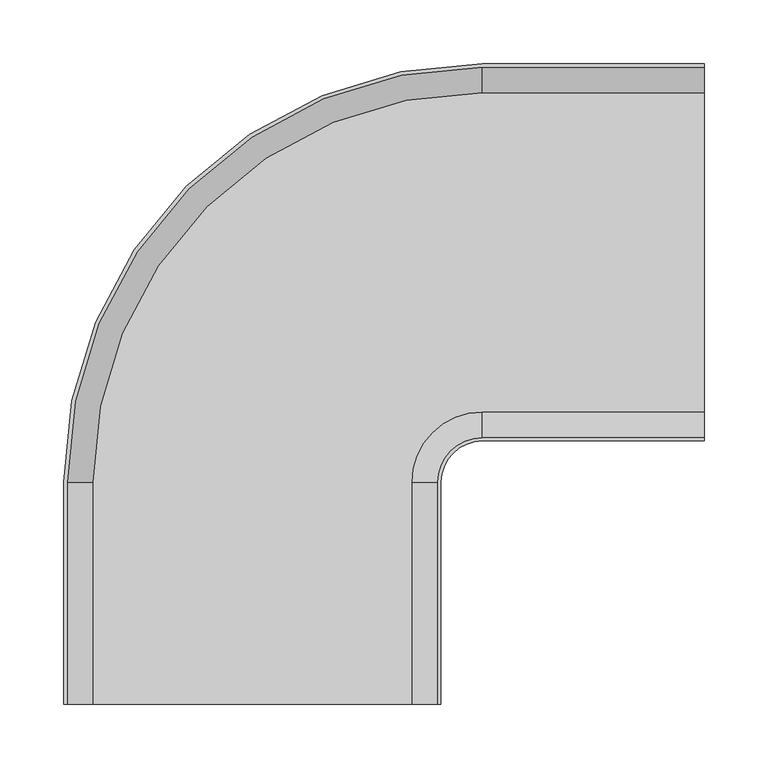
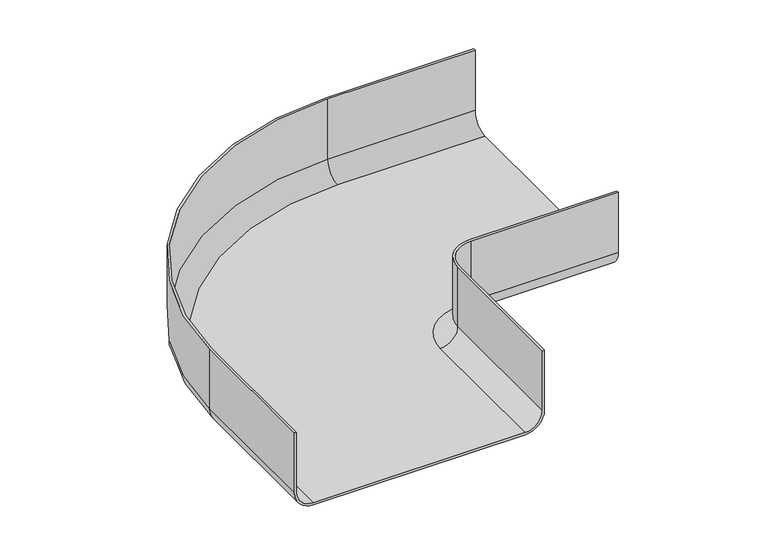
"""IFC4 building model written with IfcOpenShell, lengths in millimetres: cable carrier fitting geometry, CCT_Hyperline_FBTR_ELB90 Горизонтальный изгиб на 90° пластиковый : Горизонтальный изгиб на 90° пластиковый."""

from ifc_helpers import new_model, si_unit, point, frame, origin, place, context, project, spatial, polyline, circle_curve, ellipse_curve, trimmed, source, transform, mapped, element, save
from ifc_brep_helpers import plane_surface, cylinder_surface, revolved_surface, advanced_brep


def cable_carrier_fitting_a8f579ef(model_context):
    return source(origin(), model_context, "Body", "AdvancedBrep", [
        advanced_brep(
        [(353.5, -147.54, -25.0), (353.5, -125.0, -47.54), (353.5, 125.0, -47.54), (353.5, 147.54, -25.0), (353.5, 147.54, 50.0), (353.5, 145.0, 50.0), (353.5, 145.0, -25.0), (353.5, 125.0, -45.0), (353.5, -125.0, -45.0), (353.5, -145.0, -25.0), (353.5, -145.0, 50.0), (353.5, -147.54, 50.0), (180.0, -147.54, -25.0), (180.0, -125.0, -47.54), (180.0, -125.0, -45.0), (180.0, -145.0, -25.0), (180.0, -145.0, 50.0), (145.0, -180.0, 50.0), (145.0, -353.5, 50.0), (147.54, -353.5, 50.0), (147.54, -180.0, 50.0), (180.0, -147.54, 50.0), (125.0, -180.0, -47.54), (147.54, -180.0, -25.0), (145.0, -180.0, -25.0), (125.0, -180.0, -45.0), (147.54, -353.5, -25.0), (145.0, -353.5, -25.0), (125.0, -353.5, -45.0), (-125.0, -353.5, -45.0), (-145.0, -353.5, -25.0), (-145.0, -353.5, 50.0), (-147.54, -353.5, 50.0), (-147.54, -353.5, -25.0), (-125.0, -353.5, -47.54), (125.0, -353.5, -47.54), (180.0, 125.0, -47.54), (180.0, 147.54, -25.0), (180.0, 147.54, 50.0), (-147.54, -180.0, 50.0), (-145.0, -180.0, 50.0), (180.0, 145.0, 50.0), (180.0, 145.0, -25.0), (180.0, 125.0, -45.0), (-147.54, -180.0, -25.0), (-125.0, -180.0, -47.54), (-145.0, -180.0, -25.0), (-125.0, -180.0, -45.0)],
        [
            (0, 1, circle_curve(frame((353.5, -125.0, -25.0), z_axis=(1.0, 0.0, 0.0), x_axis=(0.0, -1.0, 0.0)), 22.54)),
            (1, 2),
            (2, 3, circle_curve(frame((353.5, 125.0, -25.0), z_axis=(1.0, 0.0, 0.0), x_axis=(0.0, -1.0, 0.0)), 22.54)),
            (3, 4),
            (4, 5),
            (5, 6),
            (6, 7, circle_curve(frame((353.5, 125.0, -25.0), z_axis=(-1.0, 0.0, 0.0), x_axis=(0.0, -1.0, 0.0)), 20.0)),
            (7, 8),
            (8, 9, circle_curve(frame((353.5, -125.0, -25.0), z_axis=(-1.0, 0.0, 0.0), x_axis=(0.0, -1.0, 0.0)), 20.0)),
            (9, 10),
            (10, 11),
            (11, 0),
            (0, 12),
            (12, 13, circle_curve(frame((180.0, -125.0, -25.0), z_axis=(1.0, 0.0, 0.0), x_axis=(0.0, -1.0, 0.0)), 22.54)),
            (13, 1),
            (8, 14),
            (14, 15, circle_curve(frame((180.0, -125.0, -25.0), z_axis=(-1.0, 0.0, 0.0), x_axis=(0.0, -1.0, 0.0)), 20.0)),
            (15, 9),
            (15, 16),
            (16, 10),
            (16, 17, circle_curve(frame((180.0, -180.0, 50.0), z_axis=(0.0, 0.0, 1.0), x_axis=(0.0, 1.0, 0.0)), 35.0)),
            (17, 18),
            (18, 19),
            (19, 20),
            (20, 21, circle_curve(frame((180.0, -180.0, 50.0), z_axis=(0.0, 0.0, -1.0), x_axis=(0.0, 1.0, 0.0)), 32.46)),
            (21, 11),
            (21, 12),
            (22, 13, circle_curve(frame((180.0, -180.0, -47.54), z_axis=(0.0, 0.0, -1.0), x_axis=(0.0, 1.0, 0.0)), 55.0)),
            (12, 23, circle_curve(frame((180.0, -180.0, -25.0), z_axis=(0.0, 0.0, 1.0), x_axis=(0.0, 1.0, 0.0)), 32.46)),
            (23, 22, circle_curve(frame((125.0, -180.0, -25.0), z_axis=(0.0, 1.0, 0.0), x_axis=(1.0, 0.0, 0.0)), 22.54)),
            (24, 15, circle_curve(frame((180.0, -180.0, -25.0), z_axis=(0.0, 0.0, -1.0), x_axis=(0.0, 1.0, 0.0)), 35.0)),
            (14, 25, circle_curve(frame((180.0, -180.0, -45.0), z_axis=(0.0, 0.0, 1.0), x_axis=(0.0, 1.0, 0.0)), 55.0)),
            (25, 24, circle_curve(frame((125.0, -180.0, -25.0), z_axis=(0.0, -1.0, 0.0), x_axis=(1.0, 0.0, 0.0)), 20.0)),
            (24, 17),
            (20, 23),
            (26, 19),
            (18, 27),
            (27, 28, circle_curve(frame((125.0, -353.5, -25.0), z_axis=(0.0, 1.0, 0.0), x_axis=(1.0, 0.0, 0.0)), 20.0)),
            (28, 29),
            (29, 30, circle_curve(frame((-125.0, -353.5, -25.0), z_axis=(0.0, 1.0, 0.0), x_axis=(1.0, 0.0, 0.0)), 20.0)),
            (30, 31),
            (31, 32),
            (32, 33),
            (33, 34, circle_curve(frame((-125.0, -353.5, -25.0), z_axis=(0.0, -1.0, 0.0), x_axis=(1.0, 0.0, 0.0)), 22.54)),
            (34, 35),
            (35, 26, circle_curve(frame((125.0, -353.5, -25.0), z_axis=(0.0, -1.0, 0.0), x_axis=(1.0, 0.0, 0.0)), 22.54)),
            (23, 26),
            (35, 22),
            (25, 28),
            (27, 24),
            (2, 36),
            (36, 37, circle_curve(frame((180.0, 125.0, -25.0), z_axis=(1.0, 0.0, 0.0), x_axis=(0.0, -1.0, 0.0)), 22.54)),
            (37, 3),
            (37, 38),
            (38, 4),
            (38, 39, circle_curve(frame((180.0, -180.0, 50.0), z_axis=(0.0, 0.0, 1.0), x_axis=(0.0, 1.0, 0.0)), 327.54)),
            (39, 32),
            (31, 40),
            (40, 41, circle_curve(frame((180.0, -180.0, 50.0), z_axis=(0.0, 0.0, -1.0), x_axis=(0.0, 1.0, 0.0)), 325.0)),
            (41, 5),
            (41, 42),
            (42, 6),
            (42, 43, circle_curve(frame((180.0, 125.0, -25.0), z_axis=(-1.0, 0.0, 0.0), x_axis=(0.0, -1.0, 0.0)), 20.0)),
            (43, 7),
            (44, 37, circle_curve(frame((180.0, -180.0, -25.0), z_axis=(0.0, 0.0, -1.0), x_axis=(0.0, 1.0, 0.0)), 327.54)),
            (36, 45, circle_curve(frame((180.0, -180.0, -47.54), z_axis=(0.0, 0.0, 1.0), x_axis=(0.0, 1.0, 0.0)), 305.0)),
            (45, 44, circle_curve(frame((-125.0, -180.0, -25.0), z_axis=(0.0, 1.0, 0.0), x_axis=(1.0, 0.0, 0.0)), 22.54)),
            (44, 39),
            (46, 42, circle_curve(frame((180.0, -180.0, -25.0), z_axis=(0.0, 0.0, -1.0), x_axis=(0.0, 1.0, 0.0)), 325.0)),
            (40, 46),
            (47, 43, circle_curve(frame((180.0, -180.0, -45.0), z_axis=(0.0, 0.0, -1.0), x_axis=(0.0, 1.0, 0.0)), 305.0)),
            (46, 47, circle_curve(frame((-125.0, -180.0, -25.0), z_axis=(0.0, -1.0, 0.0), x_axis=(1.0, 0.0, 0.0)), 20.0)),
            (45, 34),
            (33, 44),
            (30, 46),
            (29, 47),
        ],
        [
            plane_surface(frame((353.5, -145.0, 0.0), z_axis=(1.0, 0.0, 0.0), x_axis=(0.0, 0.0, 1.0))),
            cylinder_surface(frame((353.5, -125.0, -25.0), z_axis=(1.0, 0.0, 0.0), x_axis=(0.0, -1.0, 0.0)), 22.54),
            revolved_surface(polyline([(180.0, -145.0, -25.0), (353.5, -145.0, -25.0)]), (353.5, -125.0, -25.0), (-1.0, 0.0, 0.0)),
            plane_surface(frame((353.5, -145.0, -25.0), z_axis=(0.0, 1.0, 0.0), x_axis=(-1.0, 0.0, 0.0))),
            plane_surface(frame((353.5, -145.0, 50.0), z_axis=(0.0, 0.0, 1.0), x_axis=(-1.0, 0.0, 0.0))),
            plane_surface(frame((353.5, -147.54, 50.0), z_axis=(0.0, -1.0, 0.0), x_axis=(-1.0, 0.0, 0.0))),
            revolved_surface(trimmed(ellipse_curve(frame((180.0, -125.0, -25.0), z_axis=(1.0, 0.0, 0.0), x_axis=(0.0, -1.0, 0.0)), 22.54, 22.54), [point((180.0, -147.54, -25.0))], [point((180.0, -125.0, -47.54))], True, "CARTESIAN"), (180.0, -180.0, 0.0), (0.0, 0.0, 1.0)),
            revolved_surface(trimmed(ellipse_curve(frame((180.0, -125.0, -25.0), z_axis=(-1.0, 0.0, 0.0), x_axis=(0.0, -1.0, 0.0)), 20.0, 20.0), [point((180.0, -125.0, -45.0))], [point((180.0, -145.0, -25.0))], True, "CARTESIAN"), (180.0, -180.0, 0.0), (0.0, 0.0, 1.0)),
            cylinder_surface(frame((180.0, -180.0, 0.0), z_axis=(0.0, 0.0, 1.0), x_axis=(0.0, 1.0, 0.0)), 35.0),
            revolved_surface(polyline([(180.0, -147.54, 50.0), (180.0, -147.54, -25.0)]), (180.0, -180.0, 0.0), (0.0, 0.0, 1.0)),
            plane_surface(frame((145.0, -353.5, 0.0), z_axis=(0.0, -1.0, 0.0), x_axis=(0.0, 0.0, 1.0))),
            cylinder_surface(frame((125.0, -180.0, -25.0), z_axis=(0.0, 1.0, 0.0), x_axis=(1.0, 0.0, 0.0)), 22.54),
            revolved_surface(polyline([(145.0, -353.5, -25.0), (145.0, -180.0, -25.0)]), (125.0, -180.0, -25.0), (0.0, -1.0, 0.0)),
            plane_surface(frame((145.0, -180.0, -25.0), z_axis=(-1.0, 0.0, 0.0), x_axis=(0.0, -1.0, 0.0))),
            plane_surface(frame((147.54, -180.0, 50.0), z_axis=(1.0, 0.0, 0.0), x_axis=(0.0, -1.0, 0.0))),
            cylinder_surface(frame((353.5, 125.0, -25.0), z_axis=(1.0, 0.0, 0.0), x_axis=(0.0, -1.0, 0.0)), 22.54),
            plane_surface(frame((353.5, 147.54, -25.0), z_axis=(0.0, 1.0, 0.0), x_axis=(-1.0, 0.0, 0.0))),
            plane_surface(frame((353.5, 147.54, 50.0), z_axis=(0.0, 0.0, 1.0), x_axis=(-1.0, 0.0, 0.0))),
            plane_surface(frame((353.5, 145.0, 50.0), z_axis=(0.0, -1.0, 0.0), x_axis=(-1.0, 0.0, 0.0))),
            revolved_surface(polyline([(180.0, 105.0, -25.0), (353.5, 105.0, -25.0)]), (353.5, 125.0, -25.0), (-1.0, 0.0, 0.0)),
            revolved_surface(trimmed(ellipse_curve(frame((180.0, 125.0, -25.0), z_axis=(1.0, 0.0, 0.0), x_axis=(0.0, -1.0, 0.0)), 22.54, 22.54), [point((180.0, 125.0, -47.54))], [point((180.0, 147.54, -25.0))], True, "CARTESIAN"), (180.0, -180.0, 0.0), (0.0, 0.0, 1.0)),
            cylinder_surface(frame((180.0, -180.0, 0.0), z_axis=(0.0, 0.0, 1.0), x_axis=(0.0, 1.0, 0.0)), 327.54),
            revolved_surface(polyline([(180.0, 145.0, 50.0), (180.0, 145.0, -25.0)]), (180.0, -180.0, 0.0), (0.0, 0.0, 1.0)),
            revolved_surface(trimmed(ellipse_curve(frame((180.0, 125.0, -25.0), z_axis=(-1.0, 0.0, 0.0), x_axis=(0.0, -1.0, 0.0)), 20.0, 20.0), [point((180.0, 145.0, -25.0))], [point((180.0, 125.0, -45.0))], True, "CARTESIAN"), (180.0, -180.0, 0.0), (0.0, 0.0, 1.0)),
            cylinder_surface(frame((-125.0, -180.0, -25.0), z_axis=(0.0, 1.0, 0.0), x_axis=(1.0, 0.0, 0.0)), 22.54),
            plane_surface(frame((-147.54, -180.0, -25.0), z_axis=(-1.0, 0.0, 0.0), x_axis=(0.0, -1.0, 0.0))),
            plane_surface(frame((-145.0, -180.0, 50.0), z_axis=(1.0, 0.0, 0.0), x_axis=(0.0, -1.0, 0.0))),
            revolved_surface(polyline([(-105.0, -353.5, -25.0), (-105.0, -180.0, -25.0)]), (-125.0, -180.0, -25.0), (0.0, -1.0, 0.0)),
            plane_surface(frame((353.5, -125.0, -47.54), z_axis=(0.0, 0.0, -1.0), x_axis=(-1.0, 0.0, 0.0))),
            plane_surface(frame((353.5, 125.0, -45.0), z_axis=(0.0, 0.0, 1.0), x_axis=(-1.0, 0.0, 0.0))),
        ],
        [
            (0, [[1, 2, 3, 4, 5, 6, 7, 8, 9, 10, 11, 12]]),
            (1, [[-1, 13, 14, 15]]),
            (2, [[-9, 16, 17, 18]]),
            (3, [[-10, -18, 19, 20]]),
            (4, [[-11, -20, 21, 22, 23, 24, 25, 26]]),
            (5, [[-12, -26, 27, -13]]),
            (6, [[28, -14, 29, 30]]),
            (7, [[31, -17, 32, 33]]),
            (8, [[-21, -19, -31, 34]]),
            (9, [[-29, -27, -25, 35]]),
            (10, [[36, -23, 37, 38, 39, 40, 41, 42, 43, 44, 45, 46]]),
            (11, [[-30, 47, -46, 48]]),
            (12, [[-33, 49, -38, 50]]),
            (13, [[-34, -50, -37, -22]]),
            (14, [[-35, -24, -36, -47]]),
            (15, [[-3, 51, 52, 53]]),
            (16, [[-4, -53, 54, 55]]),
            (17, [[-5, -55, 56, 57, -42, 58, 59, 60]]),
            (18, [[-6, -60, 61, 62]]),
            (19, [[-7, -62, 63, 64]]),
            (20, [[65, -52, 66, 67]]),
            (21, [[-56, -54, -65, 68]]),
            (22, [[69, -61, -59, 70]]),
            (23, [[71, -63, -69, 72]]),
            (24, [[-67, 73, -44, 74]]),
            (25, [[-68, -74, -43, -57]]),
            (26, [[-70, -58, -41, 75]]),
            (27, [[-72, -75, -40, 76]]),
            (28, [[-2, -15, -28, -48, -45, -73, -66, -51]]),
            (29, [[-8, -64, -71, -76, -39, -49, -32, -16]]),
        ],
    ),
    ])


if __name__ == "__main__":
    model = new_model("IFC4")
    model_context = context("Model", 3, world=origin())
    ifc_project = project(units=[si_unit("LENGTHUNIT", "METRE", prefix="MILLI")], contexts=[model_context])
    site = spatial("IfcSite", under=ifc_project)
    building = spatial("IfcBuilding", under=site)
    placement = place(None, origin())
    cable_carrier_fitting_shape = cable_carrier_fitting_a8f579ef(model_context)
    element("IfcCableCarrierFitting", 1, ObjectType="CCT_Hyperline_FBTR_ELB90 Горизонтальный изгиб на 90° пластиковый : Горизонтальный изгиб на 90° пластиковый", at=placement, inside=building, context=model_context, shape_type="MappedRepresentation", body=[
        mapped(cable_carrier_fitting_shape, transform((0.0, 0.0, 0.0), x_axis=(1.0, 0.0, 0.0), y_axis=(0.0, 1.0, 0.0), z_axis=(0.0, 0.0, 1.0))),
    ])
    save(model, "model.ifc")
